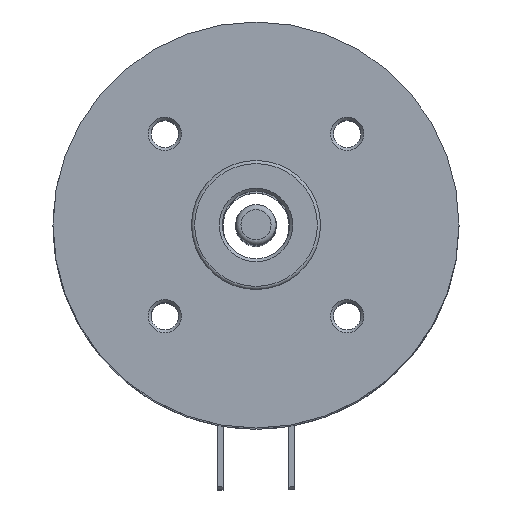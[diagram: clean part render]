
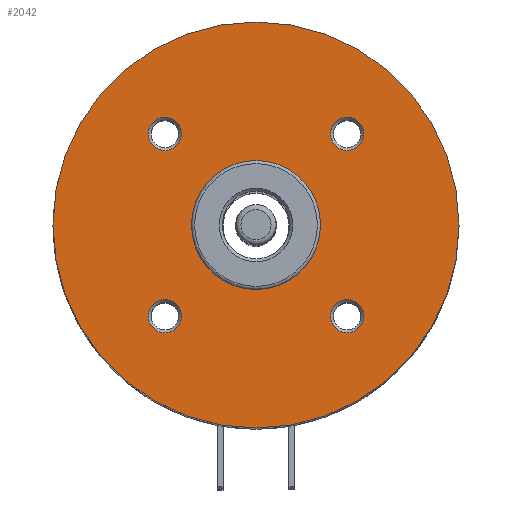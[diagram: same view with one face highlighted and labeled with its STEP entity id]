
A CAD part, top view. The second image highlights one B-rep face of the part: STEP entity #2042.
In plain terms, the highlighted planar face has unit normal (0, 0, 1).
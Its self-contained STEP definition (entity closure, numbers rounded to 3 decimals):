
#161=FACE_BOUND('',#446,.T.);
#162=FACE_BOUND('',#447,.T.);
#163=FACE_BOUND('',#448,.T.);
#164=FACE_BOUND('',#449,.T.);
#165=FACE_BOUND('',#450,.T.);
#231=PLANE('',#2401);
#307=FACE_OUTER_BOUND('',#445,.T.);
#445=EDGE_LOOP('',(#1645));
#446=EDGE_LOOP('',(#1646));
#447=EDGE_LOOP('',(#1647));
#448=EDGE_LOOP('',(#1648));
#449=EDGE_LOOP('',(#1649));
#450=EDGE_LOOP('',(#1650));
#839=CIRCLE('',#2400,1.65);
#840=CIRCLE('',#2402,20.);
#841=CIRCLE('',#2403,1.65);
#842=CIRCLE('',#2404,1.65);
#843=CIRCLE('',#2405,6.35);
#844=CIRCLE('',#2406,1.65);
#991=VERTEX_POINT('',#3465);
#992=VERTEX_POINT('',#3469);
#993=VERTEX_POINT('',#3471);
#994=VERTEX_POINT('',#3473);
#995=VERTEX_POINT('',#3475);
#996=VERTEX_POINT('',#3477);
#1225=EDGE_CURVE('',#991,#991,#839,.T.);
#1226=EDGE_CURVE('',#992,#992,#840,.T.);
#1227=EDGE_CURVE('',#993,#993,#841,.T.);
#1228=EDGE_CURVE('',#994,#994,#842,.T.);
#1229=EDGE_CURVE('',#995,#995,#843,.T.);
#1230=EDGE_CURVE('',#996,#996,#844,.T.);
#1645=ORIENTED_EDGE('',*,*,#1226,.F.);
#1646=ORIENTED_EDGE('',*,*,#1227,.F.);
#1647=ORIENTED_EDGE('',*,*,#1228,.F.);
#1648=ORIENTED_EDGE('',*,*,#1229,.T.);
#1649=ORIENTED_EDGE('',*,*,#1230,.F.);
#1650=ORIENTED_EDGE('',*,*,#1225,.F.);
#2042=ADVANCED_FACE('',(#307,#161,#162,#163,#164,#165),#231,.F.);
#2400=AXIS2_PLACEMENT_3D('',#3467,#2843,#2844);
#2401=AXIS2_PLACEMENT_3D('',#3468,#2845,#2846);
#2402=AXIS2_PLACEMENT_3D('',#3470,#2847,#2848);
#2403=AXIS2_PLACEMENT_3D('',#3472,#2849,#2850);
#2404=AXIS2_PLACEMENT_3D('',#3474,#2851,#2852);
#2405=AXIS2_PLACEMENT_3D('',#3476,#2853,#2854);
#2406=AXIS2_PLACEMENT_3D('',#3478,#2855,#2856);
#2843=DIRECTION('center_axis',(0.,0.,1.));
#2844=DIRECTION('ref_axis',(0.,-1.,0.));
#2845=DIRECTION('center_axis',(0.,0.,-1.));
#2846=DIRECTION('ref_axis',(-1.,0.,0.));
#2847=DIRECTION('center_axis',(0.,0.,-1.));
#2848=DIRECTION('ref_axis',(-1.,0.,0.));
#2849=DIRECTION('center_axis',(0.,0.,1.));
#2850=DIRECTION('ref_axis',(1.,0.,0.));
#2851=DIRECTION('center_axis',(0.,0.,1.));
#2852=DIRECTION('ref_axis',(-1.,0.,0.));
#2853=DIRECTION('center_axis',(0.,0.,-1.));
#2854=DIRECTION('ref_axis',(-1.,0.,0.));
#2855=DIRECTION('center_axis',(0.,0.,1.));
#2856=DIRECTION('ref_axis',(0.,1.,0.));
#3465=CARTESIAN_POINT('',(-8.98,-7.33,2.6));
#3467=CARTESIAN_POINT('Origin',(-8.98,-8.98,2.6));
#3468=CARTESIAN_POINT('Origin',(0.,0.,2.6));
#3469=CARTESIAN_POINT('',(20.,0.,2.6));
#3470=CARTESIAN_POINT('Origin',(0.,0.,2.6));
#3471=CARTESIAN_POINT('',(7.33,-8.98,2.6));
#3472=CARTESIAN_POINT('Origin',(8.98,-8.98,2.6));
#3473=CARTESIAN_POINT('',(-7.33,8.98,2.6));
#3474=CARTESIAN_POINT('Origin',(-8.98,8.98,2.6));
#3475=CARTESIAN_POINT('',(6.35,0.,2.6));
#3476=CARTESIAN_POINT('Origin',(0.,0.,2.6));
#3477=CARTESIAN_POINT('',(8.98,7.33,2.6));
#3478=CARTESIAN_POINT('Origin',(8.98,8.98,2.6));
